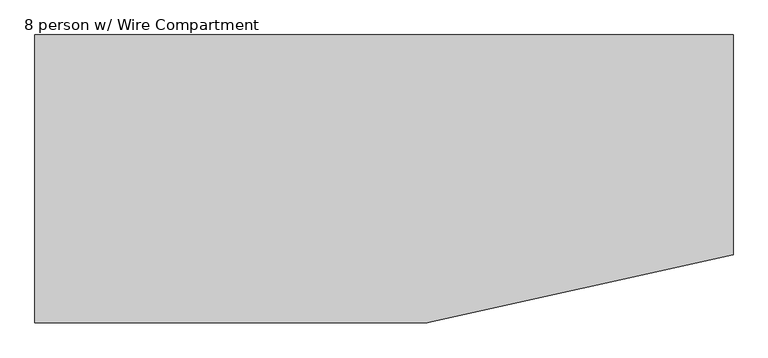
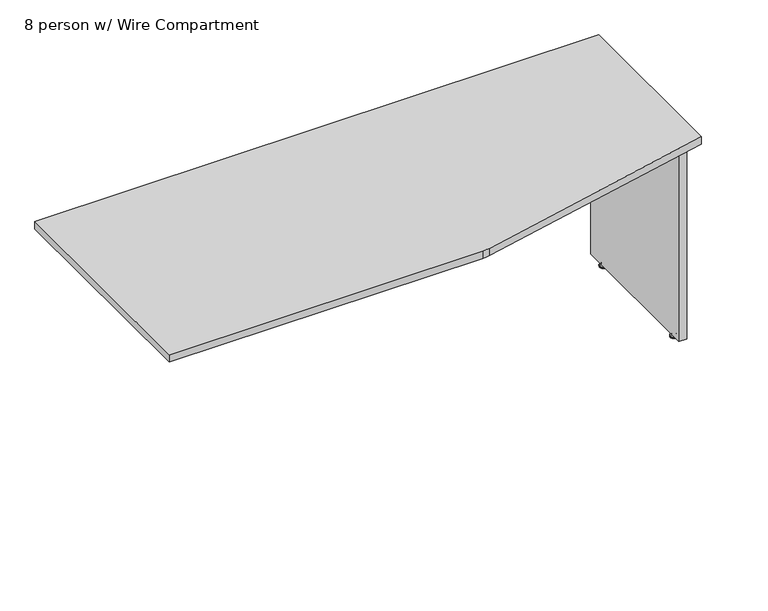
"""IFC4 building model written with IfcOpenShell, lengths in millimetres: furniture geometry, Nova Solutions - Collaboration Table - Boat_6-8 person : 8 person w/ Wire Compartment."""

from ifc_helpers import new_model, si_unit, point, frame, frame_2d, origin, place, context, project, spatial, polyline, circle_curve, ellipse_curve, trimmed, segment, composite_curve, outline, extrude, source, transform, mapped, element, save
from ifc_brep_helpers import plane_surface, cylinder_surface, revolved_surface, advanced_brep


def furniture_8_person_w_wire_compartment_3d312d08(model_context):
    return source(origin(), model_context, "Body", "SolidModel", [
        advanced_brep(
        [(916.6776506, -448.9859375, 11.1125), (903.3223494, -448.9859375, 11.1125), (910.0, -448.9859375, 11.1125), (916.6776506, -448.9859375, 9.525), (903.3223494, -448.9859375, 9.525), (921.8855135, -448.9859375, 4.7748687), (898.1144865, -448.9859375, 4.7748687), (922.7466506, -448.9859375, 3.989419), (897.2533494, -448.9859375, 3.989419), (922.7466506, -448.9859375, 3.175), (897.2533494, -448.9859375, 3.175), (921.8959119, -448.9859375, 0.0), (898.1040881, -448.9859375, 0.0), (910.0, -448.9859375, 0.0)],
        [
            (0, 1, circle_curve(frame((910.0, -448.9859375, 11.1125), z_axis=(0.0, 0.0, 1.0), x_axis=(-1.0, 0.0, 0.0)), 6.6776506)),
            (1, 2),
            (2, 0),
            (1, 0, circle_curve(frame((910.0, -448.9859375, 11.1125), z_axis=(0.0, 0.0, 1.0), x_axis=(-1.0, 0.0, 0.0)), 6.6776506)),
            (3, 4, circle_curve(frame((910.0, -448.9859375, 9.525), z_axis=(0.0, 0.0, 1.0), x_axis=(-1.0, 0.0, 0.0)), 6.6776506)),
            (4, 1),
            (0, 3),
            (4, 3, circle_curve(frame((910.0, -448.9859375, 9.525), z_axis=(0.0, 0.0, 1.0), x_axis=(-1.0, 0.0, 0.0)), 6.6776506)),
            (5, 6, circle_curve(frame((910.0, -448.9859375, 4.7748687), z_axis=(0.0, 0.0, 1.0), x_axis=(-1.0, 0.0, 0.0)), 11.8855135)),
            (6, 4, circle_curve(frame((897.0679373, -448.9859375, 11.1521822), z_axis=(0.0, -1.0, 0.0), x_axis=(1.0, 0.0, 0.0)), 6.462615)),
            (3, 5, circle_curve(frame((922.9320627, -448.9859375, 11.1521822), z_axis=(0.0, -1.0, 0.0), x_axis=(-1.0, 0.0, 0.0)), 6.462615)),
            (6, 5, circle_curve(frame((910.0, -448.9859375, 4.7748687), z_axis=(0.0, 0.0, 1.0), x_axis=(-1.0, 0.0, 0.0)), 11.8855135)),
            (7, 8, circle_curve(frame((910.0, -448.9859375, 3.989419), z_axis=(0.0, 0.0, 1.0), x_axis=(-1.0, 0.0, 0.0)), 12.7466506)),
            (8, 6, circle_curve(frame((898.2875368, -448.9859375, 3.7203591), z_axis=(0.0, 1.0, 0.0), x_axis=(1.0, 0.0, 0.0)), 1.0686145)),
            (5, 7, circle_curve(frame((921.7124632, -448.9859375, 3.7203591), z_axis=(0.0, 1.0, 0.0), x_axis=(-1.0, 0.0, 0.0)), 1.0686145)),
            (8, 7, circle_curve(frame((910.0, -448.9859375, 3.989419), z_axis=(0.0, 0.0, 1.0), x_axis=(-1.0, 0.0, 0.0)), 12.7466506)),
            (9, 10, circle_curve(frame((910.0, -448.9859375, 3.175), z_axis=(0.0, 0.0, 1.0), x_axis=(-1.0, 0.0, 0.0)), 12.7466506)),
            (10, 8),
            (7, 9),
            (10, 9, circle_curve(frame((910.0, -448.9859375, 3.175), z_axis=(0.0, 0.0, 1.0), x_axis=(-1.0, 0.0, 0.0)), 12.7466506)),
            (11, 12, circle_curve(frame((910.0, -448.9859375, 0.0), z_axis=(0.0, 0.0, 1.0), x_axis=(-1.0, 0.0, 0.0)), 11.8959119)),
            (12, 10),
            (9, 11),
            (12, 11, circle_curve(frame((910.0, -448.9859375, 0.0), z_axis=(0.0, 0.0, 1.0), x_axis=(-1.0, 0.0, 0.0)), 11.8959119)),
            (13, 12),
            (11, 13),
        ],
        [
            plane_surface(frame((910.0, -448.9859375, 11.1125), z_axis=(0.0, 0.0, 1.0), x_axis=(-1.0, 0.0, 0.0))),
            cylinder_surface(frame((910.0, -448.9859375, 43.2095994), z_axis=(0.0, 0.0, -1.0), x_axis=(-1.0, 0.0, 0.0)), 6.6776506),
            revolved_surface(trimmed(ellipse_curve(frame((897.0679373, -448.9859375, 11.1521822), z_axis=(0.0, 1.0, 0.0), x_axis=(1.0, 0.0, 0.0)), 6.462615, 6.462615), [point((903.3223494, -448.9859375, 9.525))], [point((898.1144865, -448.9859375, 4.7748687))], True, "CARTESIAN"), (910.0, -448.9859375, 43.2095994), (0.0, 0.0, -1.0)),
            revolved_surface(trimmed(ellipse_curve(frame((898.2875368, -448.9859375, 3.7203591), z_axis=(0.0, -1.0, 0.0), x_axis=(1.0, 0.0, 0.0)), 1.0686145, 1.0686145), [point((898.1144865, -448.9859375, 4.7748687))], [point((897.2533494, -448.9859375, 3.989419))], True, "CARTESIAN"), (910.0, -448.9859375, 43.2095994), (0.0, 0.0, -1.0)),
            cylinder_surface(frame((910.0, -448.9859375, 43.2095994), z_axis=(0.0, 0.0, -1.0), x_axis=(-1.0, 0.0, 0.0)), 12.7466506),
            revolved_surface(polyline([(897.2533494, -448.9859375, 3.175), (898.1040881, -448.9859375, 0.0)]), (910.0, -448.9859375, 43.2095994), (0.0, 0.0, -1.0)),
            plane_surface(frame((910.0, -448.9859375, 0.0), z_axis=(0.0, 0.0, -1.0), x_axis=(-1.0, 0.0, 0.0))),
        ],
        [
            (0, [[1, 2, 3]]),
            (0, [[4, -3, -2]]),
            (1, [[5, 6, -1, 7]]),
            (1, [[8, -7, -4, -6]]),
            (2, [[9, 10, -5, 11]]),
            (2, [[12, -11, -8, -10]]),
            (3, [[13, 14, -9, 15]]),
            (3, [[16, -15, -12, -14]]),
            (4, [[17, 18, -13, 19]]),
            (4, [[20, -19, -16, -18]]),
            (5, [[21, 22, -17, 23]]),
            (5, [[24, -23, -20, -22]]),
            (6, [[25, -21, 26]]),
            (6, [[-26, -24, -25]]),
        ],
    ),
        advanced_brep(
        [(916.6776506, -50.4140625, 11.1125), (903.3223494, -50.4140625, 11.1125), (910.0, -50.4140625, 11.1125), (916.6776506, -50.4140625, 9.525), (903.3223494, -50.4140625, 9.525), (921.8855135, -50.4140625, 4.7748687), (898.1144865, -50.4140625, 4.7748687), (922.7466506, -50.4140625, 3.989419), (897.2533494, -50.4140625, 3.989419), (922.7466506, -50.4140625, 3.175), (897.2533494, -50.4140625, 3.175), (921.8959119, -50.4140625, 0.0), (898.1040881, -50.4140625, 0.0), (910.0, -50.4140625, 0.0)],
        [
            (0, 1, circle_curve(frame((910.0, -50.4140625, 11.1125), z_axis=(0.0, 0.0, 1.0), x_axis=(-1.0, 0.0, 0.0)), 6.6776506)),
            (1, 2),
            (2, 0),
            (1, 0, circle_curve(frame((910.0, -50.4140625, 11.1125), z_axis=(0.0, 0.0, 1.0), x_axis=(-1.0, 0.0, 0.0)), 6.6776506)),
            (3, 4, circle_curve(frame((910.0, -50.4140625, 9.525), z_axis=(0.0, 0.0, 1.0), x_axis=(-1.0, 0.0, 0.0)), 6.6776506)),
            (4, 1),
            (0, 3),
            (4, 3, circle_curve(frame((910.0, -50.4140625, 9.525), z_axis=(0.0, 0.0, 1.0), x_axis=(-1.0, 0.0, 0.0)), 6.6776506)),
            (5, 6, circle_curve(frame((910.0, -50.4140625, 4.7748687), z_axis=(0.0, 0.0, 1.0), x_axis=(-1.0, 0.0, 0.0)), 11.8855135)),
            (6, 4, circle_curve(frame((897.0679373, -50.4140625, 11.1521822), z_axis=(0.0, -1.0, 0.0), x_axis=(1.0, 0.0, 0.0)), 6.462615)),
            (3, 5, circle_curve(frame((922.9320627, -50.4140625, 11.1521822), z_axis=(0.0, -1.0, 0.0), x_axis=(-1.0, 0.0, 0.0)), 6.462615)),
            (6, 5, circle_curve(frame((910.0, -50.4140625, 4.7748687), z_axis=(0.0, 0.0, 1.0), x_axis=(-1.0, 0.0, 0.0)), 11.8855135)),
            (7, 8, circle_curve(frame((910.0, -50.4140625, 3.989419), z_axis=(0.0, 0.0, 1.0), x_axis=(-1.0, 0.0, 0.0)), 12.7466506)),
            (8, 6, circle_curve(frame((898.2875368, -50.4140625, 3.7203591), z_axis=(0.0, 1.0, 0.0), x_axis=(1.0, 0.0, 0.0)), 1.0686145)),
            (5, 7, circle_curve(frame((921.7124632, -50.4140625, 3.7203591), z_axis=(0.0, 1.0, 0.0), x_axis=(-1.0, 0.0, 0.0)), 1.0686145)),
            (8, 7, circle_curve(frame((910.0, -50.4140625, 3.989419), z_axis=(0.0, 0.0, 1.0), x_axis=(-1.0, 0.0, 0.0)), 12.7466506)),
            (9, 10, circle_curve(frame((910.0, -50.4140625, 3.175), z_axis=(0.0, 0.0, 1.0), x_axis=(-1.0, 0.0, 0.0)), 12.7466506)),
            (10, 8),
            (7, 9),
            (10, 9, circle_curve(frame((910.0, -50.4140625, 3.175), z_axis=(0.0, 0.0, 1.0), x_axis=(-1.0, 0.0, 0.0)), 12.7466506)),
            (11, 12, circle_curve(frame((910.0, -50.4140625, 0.0), z_axis=(0.0, 0.0, 1.0), x_axis=(-1.0, 0.0, 0.0)), 11.8959119)),
            (12, 10),
            (9, 11),
            (12, 11, circle_curve(frame((910.0, -50.4140625, 0.0), z_axis=(0.0, 0.0, 1.0), x_axis=(-1.0, 0.0, 0.0)), 11.8959119)),
            (13, 12),
            (11, 13),
        ],
        [
            plane_surface(frame((910.0, -50.4140625, 11.1125), z_axis=(0.0, 0.0, 1.0), x_axis=(-1.0, 0.0, 0.0))),
            cylinder_surface(frame((910.0, -50.4140625, 43.2095994), z_axis=(0.0, 0.0, -1.0), x_axis=(-1.0, 0.0, 0.0)), 6.6776506),
            revolved_surface(trimmed(ellipse_curve(frame((897.0679373, -50.4140625, 11.1521822), z_axis=(0.0, 1.0, 0.0), x_axis=(1.0, 0.0, 0.0)), 6.462615, 6.462615), [point((903.3223494, -50.4140625, 9.525))], [point((898.1144865, -50.4140625, 4.7748687))], True, "CARTESIAN"), (910.0, -50.4140625, 43.2095994), (0.0, 0.0, -1.0)),
            revolved_surface(trimmed(ellipse_curve(frame((898.2875368, -50.4140625, 3.7203591), z_axis=(0.0, -1.0, 0.0), x_axis=(1.0, 0.0, 0.0)), 1.0686145, 1.0686145), [point((898.1144865, -50.4140625, 4.7748687))], [point((897.2533494, -50.4140625, 3.989419))], True, "CARTESIAN"), (910.0, -50.4140625, 43.2095994), (0.0, 0.0, -1.0)),
            cylinder_surface(frame((910.0, -50.4140625, 43.2095994), z_axis=(0.0, 0.0, -1.0), x_axis=(-1.0, 0.0, 0.0)), 12.7466506),
            revolved_surface(polyline([(897.2533494, -50.4140625, 3.175), (898.1040881, -50.4140625, 0.0)]), (910.0, -50.4140625, 43.2095994), (0.0, 0.0, -1.0)),
            plane_surface(frame((910.0, -50.4140625, 0.0), z_axis=(0.0, 0.0, -1.0), x_axis=(-1.0, 0.0, 0.0))),
        ],
        [
            (0, [[1, 2, 3]]),
            (0, [[4, -3, -2]]),
            (1, [[5, 6, -1, 7]]),
            (1, [[8, -7, -4, -6]]),
            (2, [[9, 10, -5, 11]]),
            (2, [[12, -11, -8, -10]]),
            (3, [[13, 14, -9, 15]]),
            (3, [[16, -15, -12, -14]]),
            (4, [[17, 18, -13, 19]]),
            (4, [[20, -19, -16, -18]]),
            (5, [[21, 22, -17, 23]]),
            (5, [[24, -23, -20, -22]]),
            (6, [[25, -21, 26]]),
            (6, [[-26, -24, -25]]),
        ],
    ),
        extrude(outline(polyline([(922.85, -1.4), (922.85, -498.0), (897.15, -498.0), (897.15, -1.4), (922.85, -1.4)])), frame((0.0, 0.0, 15.6), z_axis=(0.0, 0.0, 1.0), x_axis=(1.0, 0.0, 0.0)), (0.0, 0.0, 1.0), 720.7),
        extrude(outline(composite_curve([segment(polyline([(108.0350272, -758.0), (-914.276, -758.0), (-914.276, 0.0), (924.25, 0.0), (924.25, -579.5162956), (130.025292, -755.5916743)]), True, "CONTINUOUS"), segment(trimmed(circle_curve(frame_2d((108.0350272, -656.4)), 101.6), [point((130.025292, -755.5916743))], [point((108.0350272, -758.0))], False, "CARTESIAN"), True, "CONTINUOUS")], self_intersect=False)), frame((0.0, 0.0, 736.3), z_axis=(0.0, 0.0, 1.0), x_axis=(1.0, 0.0, 0.0)), (0.0, 0.0, 1.0), 25.7),
    ])


if __name__ == "__main__":
    model = new_model("IFC4")
    model_context = context("Model", 3, world=origin())
    ifc_project = project(units=[si_unit("LENGTHUNIT", "METRE", prefix="MILLI")], contexts=[model_context])
    site = spatial("IfcSite", under=ifc_project)
    building = spatial("IfcBuilding", under=site)
    placement = place(None, origin())
    furniture_8_person_w_wire_compartment_shape = furniture_8_person_w_wire_compartment_3d312d08(model_context)
    element("IfcFurniture", 1, ObjectType="Nova Solutions - Collaboration Table - Boat_6-8 person : 8 person w/ Wire Compartment", at=placement, inside=building, context=model_context, shape_type="MappedRepresentation", body=[
        mapped(furniture_8_person_w_wire_compartment_shape, transform((0.0, 0.0, 0.0), x_axis=(1.0, 0.0, 0.0), y_axis=(0.0, 1.0, 0.0), z_axis=(0.0, 0.0, 1.0))),
    ])
    save(model, "model.ifc")
